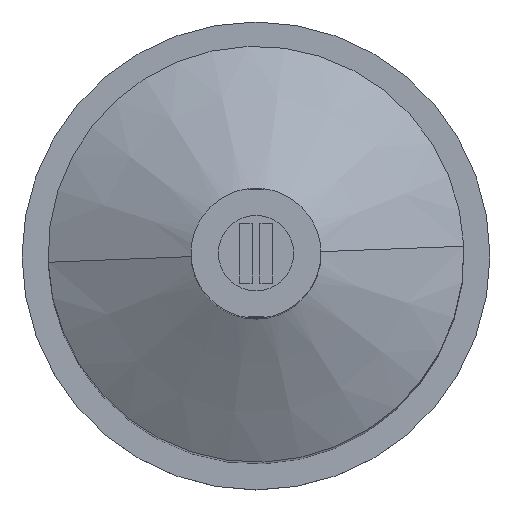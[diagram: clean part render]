
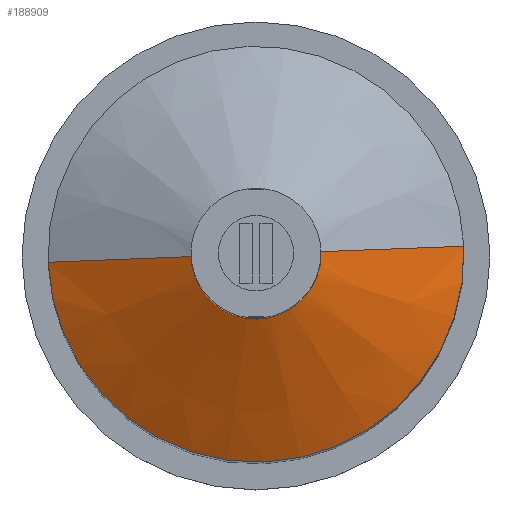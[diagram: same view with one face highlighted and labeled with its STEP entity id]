
A CAD part, top view. The second image highlights one B-rep face of the part: STEP entity #188909.
In plain terms, the highlighted conical face has half-angle 62 degrees and reference radius 2.358 mm.
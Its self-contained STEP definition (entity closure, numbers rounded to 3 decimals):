
#4071 = EDGE_LOOP ( 'NONE', ( #29827, #29830, #29832, #29835 ) ) ;
#29827 = ORIENTED_EDGE ( 'NONE', *, *, #140578, .F. ) ;
#29830 = ORIENTED_EDGE ( 'NONE', *, *, #140570, .F. ) ;
#29832 = ORIENTED_EDGE ( 'NONE', *, *, #140585, .T. ) ;
#29835 = ORIENTED_EDGE ( 'NONE', *, *, #140602, .F. ) ;
#64196 = LINE ( 'NONE', #157373, #64212 ) ;
#64212 = VECTOR ( 'NONE', #157375, 1000. ) ;
#64232 = CIRCLE ( 'NONE', #149712, 2.358 ) ;
#64241 = LINE ( 'NONE', #157365, #64244 ) ;
#64244 = VECTOR ( 'NONE', #157366, 1000. ) ;
#64276 = CIRCLE ( 'NONE', #149747, 8. ) ;
#126633 = CARTESIAN_POINT ( 'NONE',  ( 2.318, 0.041, 0. ) ) ;
#127699 = CARTESIAN_POINT ( 'NONE',  ( 7.956, 0.258, -3. ) ) ;
#128624 = VERTEX_POINT ( 'NONE', #126633 ) ;
#129748 = VERTEX_POINT ( 'NONE', #127699 ) ;
#140570 = EDGE_CURVE ( 'NONE', #171344, #128624, #64232, .T. ) ;
#140578 = EDGE_CURVE ( 'NONE', #128624, #129748, #64241, .T. ) ;
#140585 = EDGE_CURVE ( 'NONE', #171344, #171348, #64196, .T. ) ;
#140602 = EDGE_CURVE ( 'NONE', #129748, #171348, #64276, .T. ) ;
#149712 = AXIS2_PLACEMENT_3D ( 'NONE', #157356, #157359, #157360 ) ;
#149747 = AXIS2_PLACEMENT_3D ( 'NONE', #157411, #157412, #157414 ) ;
#157356 = CARTESIAN_POINT ( 'NONE',  ( -0.038, -0.049, 0. ) ) ;
#157359 = DIRECTION ( 'NONE',  ( 0., 0., 1. ) ) ;
#157360 = DIRECTION ( 'NONE',  ( 0.999, 0.038, 0. ) ) ;
#157365 = CARTESIAN_POINT ( 'NONE',  ( 2.318, 0.041, 0. ) ) ;
#157366 = DIRECTION ( 'NONE',  ( 0.882, 0.034, -0.469 ) ) ;
#157373 = CARTESIAN_POINT ( 'NONE',  ( -2.395, -0.14, 0. ) ) ;
#157375 = DIRECTION ( 'NONE',  ( -0.882, -0.034, -0.469 ) ) ;
#157411 = CARTESIAN_POINT ( 'NONE',  ( -0.038, -0.049, -3. ) ) ;
#157412 = DIRECTION ( 'NONE',  ( 0., 0., -1. ) ) ;
#157414 = DIRECTION ( 'NONE',  ( 0.999, 0.038, 0. ) ) ;
#171344 = VERTEX_POINT ( 'NONE', #213307 ) ;
#171348 = VERTEX_POINT ( 'NONE', #213320 ) ;
#188909 = ADVANCED_FACE ( 'NONE', ( #269841 ), #269827, .T. ) ;
#213307 = CARTESIAN_POINT ( 'NONE',  ( -2.395, -0.14, 0. ) ) ;
#213320 = CARTESIAN_POINT ( 'NONE',  ( -8.033, -0.357, -3. ) ) ;
#269827 = CONICAL_SURFACE ( 'NONE', #277705, 2.358, 1.082 ) ;
#269841 = FACE_OUTER_BOUND ( 'NONE', #4071, .T. ) ;
#270499 = DIRECTION ( 'NONE',  ( -0.999, -0.038, 0. ) ) ;
#270507 = DIRECTION ( 'NONE',  ( 0., 0., -1. ) ) ;
#270517 = CARTESIAN_POINT ( 'NONE',  ( -0.038, -0.049, 0. ) ) ;
#277705 = AXIS2_PLACEMENT_3D ( 'NONE', #270517, #270507, #270499 ) ;
